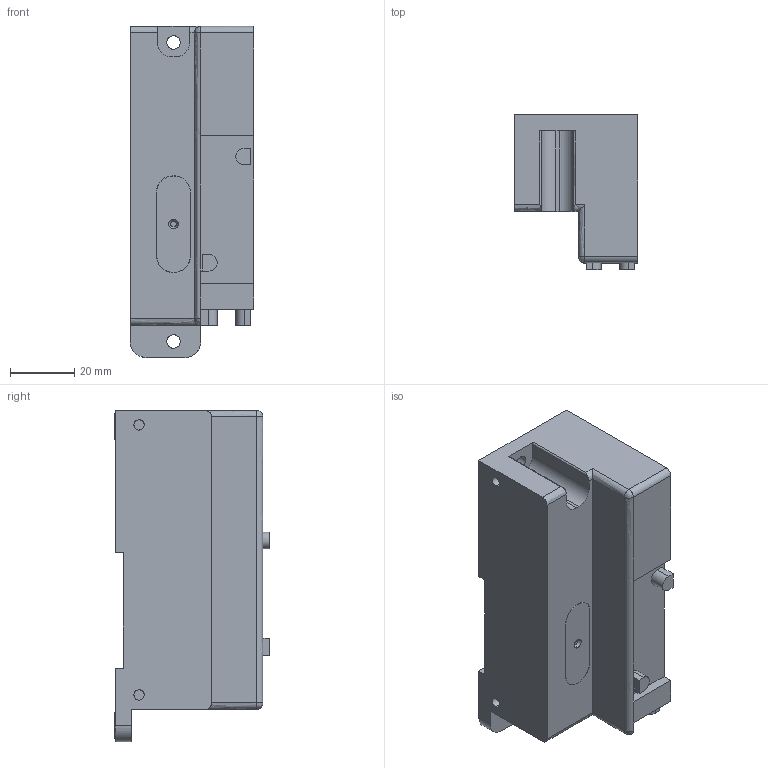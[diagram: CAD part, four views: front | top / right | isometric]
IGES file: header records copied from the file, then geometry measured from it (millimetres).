
Start section: ------------------------------------------------------------------------
Global section: file name: D:\ICADMX\tmp\trans3d_spg\CVICAD02.9116.F10ZX-LK_7815.igs; native system: spGate; preprocessor: ver12.6.6; author: Unknown; organization: Unknown; date: 200901.142036; units: millimetre
Bounding box: 38.5 x 48.1 x 103 mm (x, y, z)
Volume: 123839.5 mm3; surface area: 21152.1 mm2
Topology: 2 solids, 2 shells, 229 faces, 641 edges, 470 vertices
Faces by surface type: bspline 229
